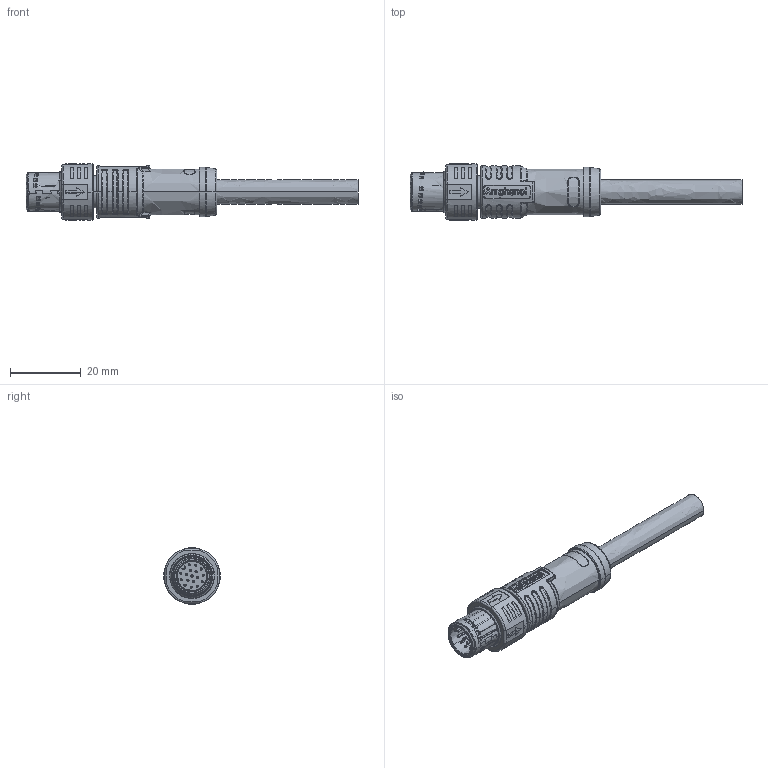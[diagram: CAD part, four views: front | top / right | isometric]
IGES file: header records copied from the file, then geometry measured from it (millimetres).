
Start section:  PTC IGES file: M12A-17BMMM-PL8BXX.igs
Global section: file name: M12A-17BMMM-PL8BXX.igs; native system: Creo Parametric by Parametric Technology Corporation; preprocessor: 2017170; author: L200019; organization: Unknown; date: 20210615.142344; units: millimetre
Bounding box: 94 x 16 x 16 mm (x, y, z)
Surface area: 5993.8 mm2 (no closed solid volume)
Topology: 0 solids, 0 shells, 1600 faces, 8832 edges, 8798 vertices
Faces by surface type: bspline 1600
